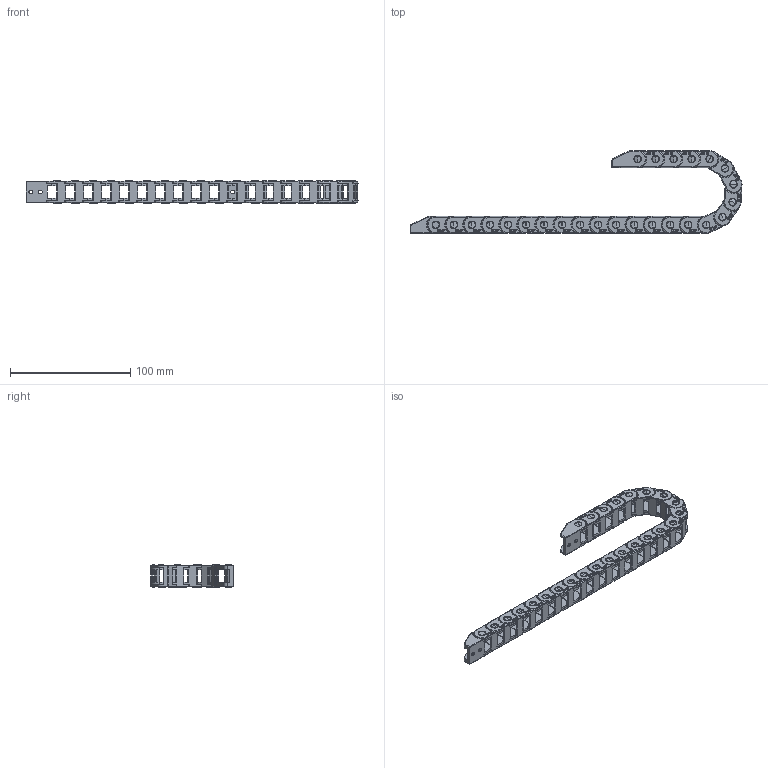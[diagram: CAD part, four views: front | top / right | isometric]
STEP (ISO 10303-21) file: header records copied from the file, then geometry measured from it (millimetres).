
FILE_DESCRIPTION (( 'STEP AP203' ), '1' );
FILE_NAME ('5F-J10Q.1.10B--3D桥式不打开组件图.STEP', '2017-05-05T08:07:28', ( 'china' ), ( 'china' ), 'SwSTEP 2.0', 'SolidWorks 2016', '' );
FILE_SCHEMA (( 'CONFIG_CONTROL_DESIGN' ));
Length unit declared in the file: millimetre
Products named in the file (4): 10X10-囀諉芛; 5F-J10Q.1.10B--3D桥式不打开组件图; 10X10-3D-ZTͼ; 10X10-俋諉芛
Assembly tree (26 placements, depth 2):
  5F-J10Q.1.10B--3D桥式不打开组件图
    10X10-3D-ZTͼ  x24
    10X10-俋諉芛
    10X10-囀諉芛
Bounding box: 276.27 x 68.72 x 18.4 mm (x, y, z)
Volume: 48675.6 mm3; surface area: 57615.5 mm2
Topology: 26 solids, 26 shells, 6530 faces, 16842 edges, 10794 vertices
Faces by surface type: plane 2622, bspline 2112, cylinder 1140, torus 548, sphere 100, cone 8
Entity records: 17105 total; most frequent: CARTESIAN_POINT 6995, ORIENTED_EDGE 1974, DIRECTION 1747, EDGE_CURVE 987, VERTEX_POINT 628, AXIS2_PLACEMENT_3D 620, LINE 507, VECTOR 507
